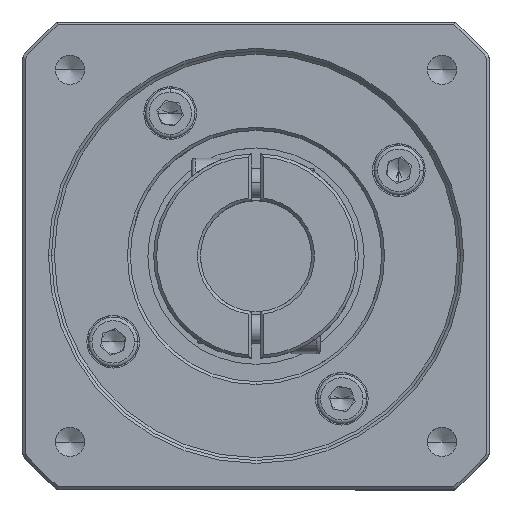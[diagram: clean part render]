
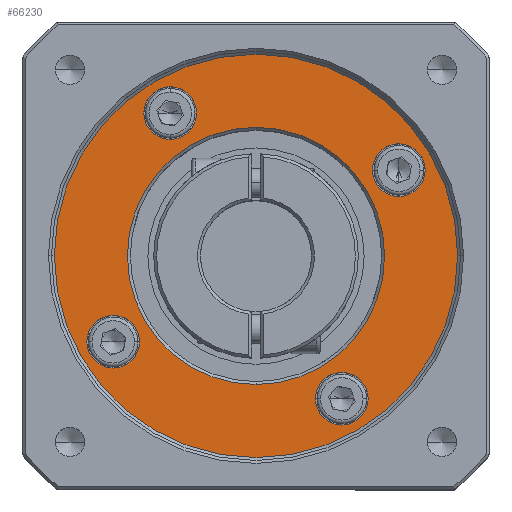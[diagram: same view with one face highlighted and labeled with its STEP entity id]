
A CAD part, top view. The second image highlights one B-rep face of the part: STEP entity #66230.
In plain terms, the highlighted planar face has unit normal (0, 0, 1).
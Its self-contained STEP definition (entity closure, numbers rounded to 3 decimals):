
#641 = ORIENTED_EDGE ( 'NONE', *, *, #70377, .T. ) ;
#2105 = CARTESIAN_POINT ( 'NONE',  ( -26.938, -11.736, 195.002 ) ) ;
#2139 = CARTESIAN_POINT ( 'NONE',  ( -16.759, -14.165, 195.002 ) ) ;
#2200 = ORIENTED_EDGE ( 'NONE', *, *, #84380, .T. ) ;
#3699 = DIRECTION ( 'NONE',  ( 0., 0., -1. ) ) ;
#4238 = DIRECTION ( 'NONE',  ( 0., 0., -1. ) ) ;
#4317 = VERTEX_POINT ( 'NONE', #79686 ) ;
#4702 = CIRCLE ( 'NONE', #13127, 4.5 ) ;
#5255 = CARTESIAN_POINT ( 'NONE',  ( -26.938, 10.264, 195.002 ) ) ;
#5333 = CIRCLE ( 'NONE', #82703, 4.5 ) ;
#5966 = EDGE_CURVE ( 'NONE', #13224, #13353, #15327, .T. ) ;
#6873 = PLANE ( 'NONE',  #54594 ) ;
#7200 = DIRECTION ( 'NONE',  ( 1., 0., 0. ) ) ;
#9676 = DIRECTION ( 'NONE',  ( 0., 0., -1. ) ) ;
#9735 = FACE_BOUND ( 'NONE', #76104, .T. ) ;
#9846 = CARTESIAN_POINT ( 'NONE',  ( 7.562, 10.264, 195.002 ) ) ;
#10434 = CIRCLE ( 'NONE', #41489, 34.5 ) ;
#10759 = AXIS2_PLACEMENT_3D ( 'NONE', #100304, #53714, #7200 ) ;
#10900 = ORIENTED_EDGE ( 'NONE', *, *, #74711, .T. ) ;
#10906 = CARTESIAN_POINT ( 'NONE',  ( -46.116, 34.693, 195.002 ) ) ;
#11439 = DIRECTION ( 'NONE',  ( 0., 0., 1. ) ) ;
#13086 = DIRECTION ( 'NONE',  ( 0., -1., 0. ) ) ;
#13127 = AXIS2_PLACEMENT_3D ( 'NONE', #74072, #27567, #81889 ) ;
#13224 = VERTEX_POINT ( 'NONE', #70200 ) ;
#13353 = VERTEX_POINT ( 'NONE', #16924 ) ;
#14563 = VERTEX_POINT ( 'NONE', #46974 ) ;
#14902 = CIRCLE ( 'NONE', #44821, 4.5 ) ;
#15327 = CIRCLE ( 'NONE', #96345, 4.5 ) ;
#15441 = EDGE_LOOP ( 'NONE', ( #641, #45666 ) ) ;
#15971 = VERTEX_POINT ( 'NONE', #2105 ) ;
#16678 = AXIS2_PLACEMENT_3D ( 'NONE', #35536, #89854, #43386 ) ;
#16924 = CARTESIAN_POINT ( 'NONE',  ( -46.867, -4.415, 195.002 ) ) ;
#18499 = AXIS2_PLACEMENT_3D ( 'NONE', #57958, #11439, #65727 ) ;
#18848 = CARTESIAN_POINT ( 'NONE',  ( -26.938, 10.264, 195.002 ) ) ;
#20855 = EDGE_CURVE ( 'NONE', #93381, #52099, #32744, .T. ) ;
#21096 = CARTESIAN_POINT ( 'NONE',  ( -41.616, 34.693, 195.002 ) ) ;
#23951 = EDGE_CURVE ( 'NONE', #95918, #4317, #14902, .T. ) ;
#24472 = CIRCLE ( 'NONE', #41103, 4.5 ) ;
#25708 = CARTESIAN_POINT ( 'NONE',  ( -37.116, 34.693, 195.002 ) ) ;
#26652 = DIRECTION ( 'NONE',  ( 1., 0., 0. ) ) ;
#27567 = DIRECTION ( 'NONE',  ( 0., 0., -1. ) ) ;
#28905 = DIRECTION ( 'NONE',  ( 1., 0., 0. ) ) ;
#30375 = FACE_BOUND ( 'NONE', #70724, .T. ) ;
#31669 = ORIENTED_EDGE ( 'NONE', *, *, #5966, .T. ) ;
#32677 = AXIS2_PLACEMENT_3D ( 'NONE', #50780, #4238, #58553 ) ;
#32744 = CIRCLE ( 'NONE', #32677, 4.5 ) ;
#32841 = FACE_BOUND ( 'NONE', #66602, .T. ) ;
#34457 = CIRCLE ( 'NONE', #16678, 4.5 ) ;
#34502 = EDGE_CURVE ( 'NONE', #4317, #95918, #4702, .T. ) ;
#34511 = CARTESIAN_POINT ( 'NONE',  ( -7.008, 24.942, 195.002 ) ) ;
#35536 = CARTESIAN_POINT ( 'NONE',  ( -41.616, 34.693, 195.002 ) ) ;
#39393 = ORIENTED_EDGE ( 'NONE', *, *, #23951, .T. ) ;
#41103 = AXIS2_PLACEMENT_3D ( 'NONE', #56187, #9676, #63964 ) ;
#41489 = AXIS2_PLACEMENT_3D ( 'NONE', #18848, #73148, #26652 ) ;
#41621 = VERTEX_POINT ( 'NONE', #10906 ) ;
#41711 = EDGE_LOOP ( 'NONE', ( #2200, #72231 ) ) ;
#41776 = DIRECTION ( 'NONE',  ( 0., 0., -1. ) ) ;
#42411 = DIRECTION ( 'NONE',  ( 0., 0., -1. ) ) ;
#43386 = DIRECTION ( 'NONE',  ( 1., 0., 0. ) ) ;
#44821 = AXIS2_PLACEMENT_3D ( 'NONE', #50248, #3699, #58025 ) ;
#45666 = ORIENTED_EDGE ( 'NONE', *, *, #61355, .T. ) ;
#45973 = DIRECTION ( 'NONE',  ( 0., 0., 1. ) ) ;
#46974 = CARTESIAN_POINT ( 'NONE',  ( -26.938, 32.264, 195.002 ) ) ;
#50248 = CARTESIAN_POINT ( 'NONE',  ( -12.259, -14.165, 195.002 ) ) ;
#50780 = CARTESIAN_POINT ( 'NONE',  ( -2.508, 24.942, 195.002 ) ) ;
#51039 = FACE_OUTER_BOUND ( 'NONE', #41711, .T. ) ;
#51159 = CARTESIAN_POINT ( 'NONE',  ( 1.992, 24.942, 195.002 ) ) ;
#52099 = VERTEX_POINT ( 'NONE', #51159 ) ;
#52504 = EDGE_LOOP ( 'NONE', ( #56192, #39393 ) ) ;
#53462 = FACE_BOUND ( 'NONE', #52504, .T. ) ;
#53714 = DIRECTION ( 'NONE',  ( 0., 0., -1. ) ) ;
#54150 = CIRCLE ( 'NONE', #10759, 4.5 ) ;
#54224 = CIRCLE ( 'NONE', #71086, 22. ) ;
#54594 = AXIS2_PLACEMENT_3D ( 'NONE', #92483, #45973, #100331 ) ;
#56187 = CARTESIAN_POINT ( 'NONE',  ( -51.367, -4.415, 195.002 ) ) ;
#56192 = ORIENTED_EDGE ( 'NONE', *, *, #34502, .T. ) ;
#56347 = ORIENTED_EDGE ( 'NONE', *, *, #69466, .T. ) ;
#57958 = CARTESIAN_POINT ( 'NONE',  ( -26.938, 10.264, 195.002 ) ) ;
#58025 = DIRECTION ( 'NONE',  ( 1., 0., 0. ) ) ;
#58553 = DIRECTION ( 'NONE',  ( 1., 0., 0. ) ) ;
#59566 = DIRECTION ( 'NONE',  ( 0., 0., -1. ) ) ;
#60643 = VERTEX_POINT ( 'NONE', #25708 ) ;
#61355 = EDGE_CURVE ( 'NONE', #41621, #60643, #5333, .T. ) ;
#63964 = DIRECTION ( 'NONE',  ( 1., 0., 0. ) ) ;
#64264 = ORIENTED_EDGE ( 'NONE', *, *, #20855, .T. ) ;
#65592 = AXIS2_PLACEMENT_3D ( 'NONE', #88890, #42411, #96751 ) ;
#65727 = DIRECTION ( 'NONE',  ( 1., 0., 0. ) ) ;
#66230 = ADVANCED_FACE ( 'NONE', ( #32841, #51039, #53462, #30375, #9735, #89901 ), #6873, .T. ) ;
#66602 = EDGE_LOOP ( 'NONE', ( #71694, #10900 ) ) ;
#67725 = EDGE_CURVE ( 'NONE', #13353, #13224, #24472, .T. ) ;
#68880 = CIRCLE ( 'NONE', #18499, 34.5 ) ;
#69466 = EDGE_CURVE ( 'NONE', #52099, #93381, #54150, .T. ) ;
#70200 = CARTESIAN_POINT ( 'NONE',  ( -55.867, -4.415, 195.002 ) ) ;
#70377 = EDGE_CURVE ( 'NONE', #60643, #41621, #34457, .T. ) ;
#70468 = VERTEX_POINT ( 'NONE', #84022 ) ;
#70724 = EDGE_LOOP ( 'NONE', ( #56347, #64264 ) ) ;
#71086 = AXIS2_PLACEMENT_3D ( 'NONE', #5255, #59566, #13086 ) ;
#71694 = ORIENTED_EDGE ( 'NONE', *, *, #77735, .T. ) ;
#72231 = ORIENTED_EDGE ( 'NONE', *, *, #85309, .T. ) ;
#73148 = DIRECTION ( 'NONE',  ( 0., 0., 1. ) ) ;
#74072 = CARTESIAN_POINT ( 'NONE',  ( -12.259, -14.165, 195.002 ) ) ;
#74711 = EDGE_CURVE ( 'NONE', #14563, #15971, #54224, .T. ) ;
#75420 = DIRECTION ( 'NONE',  ( 0., 0., -1. ) ) ;
#76104 = EDGE_LOOP ( 'NONE', ( #90961, #31669 ) ) ;
#77735 = EDGE_CURVE ( 'NONE', #15971, #14563, #100404, .T. ) ;
#79686 = CARTESIAN_POINT ( 'NONE',  ( -7.759, -14.165, 195.002 ) ) ;
#81889 = DIRECTION ( 'NONE',  ( 1., 0., 0. ) ) ;
#82703 = AXIS2_PLACEMENT_3D ( 'NONE', #21096, #75420, #28905 ) ;
#84022 = CARTESIAN_POINT ( 'NONE',  ( -61.438, 10.264, 195.002 ) ) ;
#84380 = EDGE_CURVE ( 'NONE', #86239, #70468, #68880, .T. ) ;
#85309 = EDGE_CURVE ( 'NONE', #70468, #86239, #10434, .T. ) ;
#86239 = VERTEX_POINT ( 'NONE', #9846 ) ;
#88263 = CARTESIAN_POINT ( 'NONE',  ( -51.367, -4.415, 195.002 ) ) ;
#88890 = CARTESIAN_POINT ( 'NONE',  ( -26.938, 10.264, 195.002 ) ) ;
#89854 = DIRECTION ( 'NONE',  ( 0., 0., -1. ) ) ;
#89901 = FACE_BOUND ( 'NONE', #15441, .T. ) ;
#90961 = ORIENTED_EDGE ( 'NONE', *, *, #67725, .T. ) ;
#92483 = CARTESIAN_POINT ( 'NONE',  ( -26.938, 10.264, 195.002 ) ) ;
#93381 = VERTEX_POINT ( 'NONE', #34511 ) ;
#95918 = VERTEX_POINT ( 'NONE', #2139 ) ;
#96160 = DIRECTION ( 'NONE',  ( 1., 0., 0. ) ) ;
#96345 = AXIS2_PLACEMENT_3D ( 'NONE', #88263, #41776, #96160 ) ;
#96751 = DIRECTION ( 'NONE',  ( 0., -1., 0. ) ) ;
#100304 = CARTESIAN_POINT ( 'NONE',  ( -2.508, 24.942, 195.002 ) ) ;
#100331 = DIRECTION ( 'NONE',  ( 1., 0., 0. ) ) ;
#100404 = CIRCLE ( 'NONE', #65592, 22. ) ;
